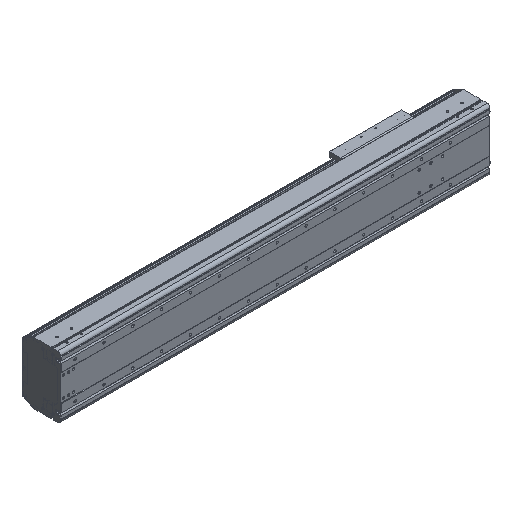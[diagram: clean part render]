
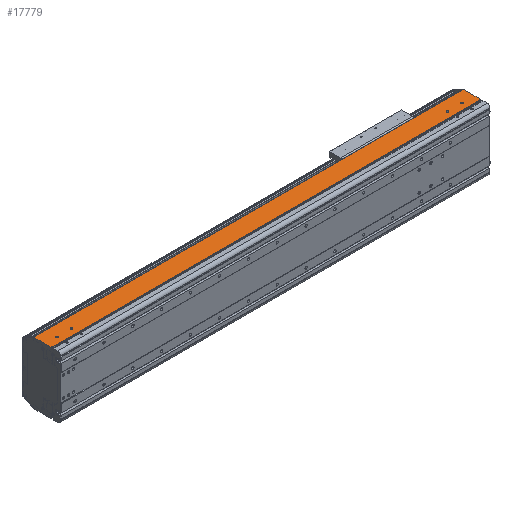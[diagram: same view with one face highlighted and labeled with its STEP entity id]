
A CAD part, isometric view. The second image highlights one B-rep face of the part: STEP entity #17779.
In plain terms, the highlighted planar face has unit normal (0, 0, 1).
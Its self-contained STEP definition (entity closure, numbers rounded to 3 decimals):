
#2933=DIRECTION('',(1.,0.,0.));
#2934=VECTOR('',#2933,2.);
#2935=CARTESIAN_POINT('',(0.,34.65,107.));
#2936=LINE('',#2935,#2934);
#2941=CARTESIAN_POINT('',(-42.,54.,107.));
#2942=DIRECTION('',(0.,0.,-1.));
#2943=DIRECTION('',(1.,0.,0.));
#2944=AXIS2_PLACEMENT_3D('',#2941,#2942,#2943);
#2946=CARTESIAN_POINT('',(-42.,54.,107.));
#2947=DIRECTION('',(0.,0.,-1.));
#2948=DIRECTION('',(-1.,0.,0.));
#2949=AXIS2_PLACEMENT_3D('',#2946,#2947,#2948);
#2951=CARTESIAN_POINT('',(-92.,54.,107.));
#2952=DIRECTION('',(0.,0.,-1.));
#2953=DIRECTION('',(1.,0.,0.));
#2954=AXIS2_PLACEMENT_3D('',#2951,#2952,#2953);
#2956=CARTESIAN_POINT('',(-92.,54.,107.));
#2957=DIRECTION('',(0.,0.,-1.));
#2958=DIRECTION('',(-1.,0.,0.));
#2959=AXIS2_PLACEMENT_3D('',#2956,#2957,#2958);
#2961=CARTESIAN_POINT('',(-1444.,54.,107.));
#2962=DIRECTION('',(0.,0.,-1.));
#2963=DIRECTION('',(1.,0.,0.));
#2964=AXIS2_PLACEMENT_3D('',#2961,#2962,#2963);
#2966=CARTESIAN_POINT('',(-1444.,54.,107.));
#2967=DIRECTION('',(0.,0.,-1.));
#2968=DIRECTION('',(-1.,0.,0.));
#2969=AXIS2_PLACEMENT_3D('',#2966,#2967,#2968);
#2971=CARTESIAN_POINT('',(-1394.,54.,107.));
#2972=DIRECTION('',(0.,0.,-1.));
#2973=DIRECTION('',(1.,0.,0.));
#2974=AXIS2_PLACEMENT_3D('',#2971,#2972,#2973);
#2976=CARTESIAN_POINT('',(-1394.,54.,107.));
#2977=DIRECTION('',(0.,0.,-1.));
#2978=DIRECTION('',(-1.,0.,0.));
#2979=AXIS2_PLACEMENT_3D('',#2976,#2977,#2978);
#2981=DIRECTION('',(0.,-1.,0.));
#2982=VECTOR('',#2981,2.55);
#2983=CARTESIAN_POINT('',(-1484.,34.65,107.));
#2984=LINE('',#2983,#2982);
#2985=DIRECTION('',(0.,-1.,0.));
#2986=VECTOR('',#2985,58.85);
#2987=CARTESIAN_POINT('',(-1486.,93.5,107.));
#2988=LINE('',#2987,#2986);
#2989=DIRECTION('',(0.,1.,0.));
#2990=VECTOR('',#2989,58.85);
#2991=CARTESIAN_POINT('',(2.,34.65,107.));
#2992=LINE('',#2991,#2990);
#2993=DIRECTION('',(0.,1.,0.));
#2994=VECTOR('',#2993,2.55);
#2995=CARTESIAN_POINT('',(0.,32.1,107.));
#2996=LINE('',#2995,#2994);
#3105=DIRECTION('',(1.,0.,0.));
#3106=VECTOR('',#3105,2.);
#3107=CARTESIAN_POINT('',(-1486.,34.65,107.));
#3108=LINE('',#3107,#3106);
#3117=DIRECTION('',(-1.,0.,0.));
#3118=VECTOR('',#3117,1488.);
#3119=CARTESIAN_POINT('',(2.,93.5,107.));
#3120=LINE('',#3119,#3118);
#10466=DIRECTION('',(1.,0.,0.));
#10467=VECTOR('',#10466,1484.);
#10468=CARTESIAN_POINT('',(-1484.,32.1,107.));
#10469=LINE('',#10468,#10467);
#11787=CARTESIAN_POINT('',(-1486.,34.65,107.));
#11788=VERTEX_POINT('',#11787);
#11789=CARTESIAN_POINT('',(-1486.,93.5,107.));
#11790=VERTEX_POINT('',#11789);
#12011=CARTESIAN_POINT('',(-1484.,32.1,107.));
#12012=VERTEX_POINT('',#12011);
#12083=CARTESIAN_POINT('',(0.,32.1,107.));
#12084=VERTEX_POINT('',#12083);
#12501=CARTESIAN_POINT('',(-39.5,54.,107.));
#12502=CARTESIAN_POINT('',(-44.5,54.,107.));
#12503=VERTEX_POINT('',#12501);
#12504=VERTEX_POINT('',#12502);
#12505=CARTESIAN_POINT('',(-89.5,54.,107.));
#12506=CARTESIAN_POINT('',(-94.5,54.,107.));
#12507=VERTEX_POINT('',#12505);
#12508=VERTEX_POINT('',#12506);
#12509=CARTESIAN_POINT('',(-1441.5,54.,107.));
#12510=CARTESIAN_POINT('',(-1446.5,54.,107.));
#12511=VERTEX_POINT('',#12509);
#12512=VERTEX_POINT('',#12510);
#12513=CARTESIAN_POINT('',(-1391.5,54.,107.));
#12514=CARTESIAN_POINT('',(-1396.5,54.,107.));
#12515=VERTEX_POINT('',#12513);
#12516=VERTEX_POINT('',#12514);
#13628=CARTESIAN_POINT('',(2.,34.65,107.));
#13629=VERTEX_POINT('',#13628);
#13630=CARTESIAN_POINT('',(2.,93.5,107.));
#13631=VERTEX_POINT('',#13630);
#13852=CARTESIAN_POINT('',(0.,34.65,107.));
#13853=VERTEX_POINT('',#13852);
#14164=CARTESIAN_POINT('',(-1484.,34.65,107.));
#14165=VERTEX_POINT('',#14164);
#17737=CARTESIAN_POINT('',(-742.,62.8,107.));
#17738=DIRECTION('',(0.,0.,1.));
#17739=DIRECTION('',(0.,-1.,0.));
#17740=AXIS2_PLACEMENT_3D('',#17737,#17738,#17739);
#17741=PLANE('',#17740);
#17742=ORIENTED_EDGE('',*,*,#14952,.F.);
#17744=ORIENTED_EDGE('',*,*,#17743,.F.);
#17745=ORIENTED_EDGE('',*,*,#16035,.F.);
#17747=ORIENTED_EDGE('',*,*,#17746,.F.);
#17748=ORIENTED_EDGE('',*,*,#17535,.F.);
#17749=ORIENTED_EDGE('',*,*,#17730,.F.);
#17750=ORIENTED_EDGE('',*,*,#15559,.F.);
#17752=ORIENTED_EDGE('',*,*,#17751,.F.);
#17753=EDGE_LOOP('',(#17742,#17744,#17745,#17747,#17748,#17749,#17750,#17752));
#17754=FACE_OUTER_BOUND('',#17753,.F.);
#17756=ORIENTED_EDGE('',*,*,#17755,.F.);
#17758=ORIENTED_EDGE('',*,*,#17757,.F.);
#17759=EDGE_LOOP('',(#17756,#17758));
#17760=FACE_BOUND('',#17759,.F.);
#17762=ORIENTED_EDGE('',*,*,#17761,.F.);
#17764=ORIENTED_EDGE('',*,*,#17763,.F.);
#17765=EDGE_LOOP('',(#17762,#17764));
#17766=FACE_BOUND('',#17765,.F.);
#17768=ORIENTED_EDGE('',*,*,#17767,.F.);
#17770=ORIENTED_EDGE('',*,*,#17769,.F.);
#17771=EDGE_LOOP('',(#17768,#17770));
#17772=FACE_BOUND('',#17771,.F.);
#17774=ORIENTED_EDGE('',*,*,#17773,.F.);
#17776=ORIENTED_EDGE('',*,*,#17775,.F.);
#17777=EDGE_LOOP('',(#17774,#17776));
#17778=FACE_BOUND('',#17777,.F.);
#17779=ADVANCED_FACE('',(#17754,#17760,#17766,#17772,#17778),#17741,.T.);
#2945=CIRCLE('',#2944,2.5);
#2950=CIRCLE('',#2949,2.5);
#2955=CIRCLE('',#2954,2.5);
#2960=CIRCLE('',#2959,2.5);
#2965=CIRCLE('',#2964,2.5);
#2970=CIRCLE('',#2969,2.5);
#2975=CIRCLE('',#2974,2.5);
#2980=CIRCLE('',#2979,2.5);
#14952=EDGE_CURVE('',#14165,#12012,#2984,.T.);
#15559=EDGE_CURVE('',#12084,#13853,#2996,.T.);
#16035=EDGE_CURVE('',#11790,#11788,#2988,.T.);
#17535=EDGE_CURVE('',#13629,#13631,#2992,.T.);
#17730=EDGE_CURVE('',#13853,#13629,#2936,.T.);
#17743=EDGE_CURVE('',#11788,#14165,#3108,.T.);
#17746=EDGE_CURVE('',#13631,#11790,#3120,.T.);
#17751=EDGE_CURVE('',#12012,#12084,#10469,.T.);
#17755=EDGE_CURVE('',#12507,#12508,#2955,.T.);
#17757=EDGE_CURVE('',#12508,#12507,#2960,.T.);
#17761=EDGE_CURVE('',#12511,#12512,#2965,.T.);
#17763=EDGE_CURVE('',#12512,#12511,#2970,.T.);
#17767=EDGE_CURVE('',#12515,#12516,#2975,.T.);
#17769=EDGE_CURVE('',#12516,#12515,#2980,.T.);
#17773=EDGE_CURVE('',#12503,#12504,#2945,.T.);
#17775=EDGE_CURVE('',#12504,#12503,#2950,.T.);
